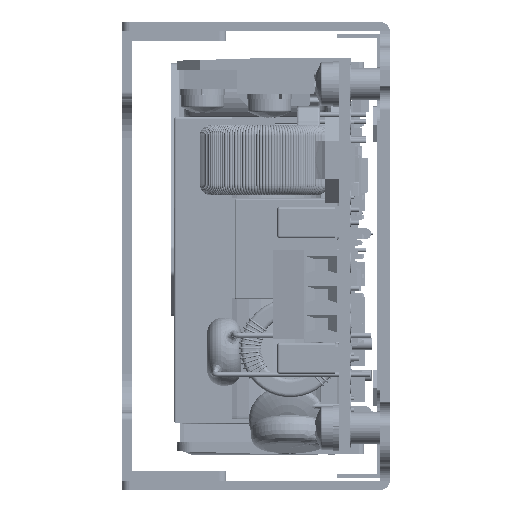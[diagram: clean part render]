
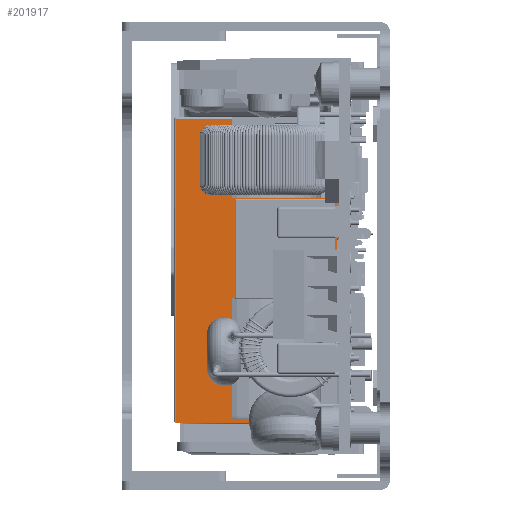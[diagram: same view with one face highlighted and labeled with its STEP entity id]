
A CAD part, left-side view. The second image highlights one B-rep face of the part: STEP entity #201917.
In plain terms, the highlighted planar face has unit normal (-1, 0, 0).
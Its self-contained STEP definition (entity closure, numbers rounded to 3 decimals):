
#1241 = ORIENTED_EDGE ( 'NONE', *, *, #32828, .T. ) ;
#4769 = ORIENTED_EDGE ( 'NONE', *, *, #473933, .F. ) ;
#11300 = CIRCLE ( 'NONE', #338039, 0.3 ) ;
#14370 = CARTESIAN_POINT ( 'NONE',  ( -19.404, -2.943, 96.411 ) ) ;
#18973 = EDGE_CURVE ( 'NONE', #394487, #508187, #142054, .T. ) ;
#20506 = LINE ( 'NONE', #456463, #126570 ) ;
#24136 = CARTESIAN_POINT ( 'NONE',  ( -19.404, 17.807, 106.561 ) ) ;
#32642 = DIRECTION ( 'NONE',  ( 0., 0., -1. ) ) ;
#32828 = EDGE_CURVE ( 'NONE', #508187, #414725, #20506, .T. ) ;
#37602 = DIRECTION ( 'NONE',  ( 0., 0., -1. ) ) ;
#48152 = CARTESIAN_POINT ( 'NONE',  ( -19.404, -2.643, 96.411 ) ) ;
#50537 = LINE ( 'NONE', #437788, #356437 ) ;
#54561 = CARTESIAN_POINT ( 'NONE',  ( -19.404, -2.943, 96.111 ) ) ;
#58815 = VERTEX_POINT ( 'NONE', #466336 ) ;
#63708 = EDGE_CURVE ( 'NONE', #58815, #113933, #330526, .T. ) ;
#64046 = VECTOR ( 'NONE', #393320, 1000. ) ;
#67596 = PLANE ( 'NONE',  #359834 ) ;
#70682 = ORIENTED_EDGE ( 'NONE', *, *, #459555, .T. ) ;
#89038 = CARTESIAN_POINT ( 'NONE',  ( -19.404, -2.943, 67.811 ) ) ;
#89202 = ORIENTED_EDGE ( 'NONE', *, *, #214662, .F. ) ;
#106070 = CARTESIAN_POINT ( 'NONE',  ( -19.404, 17.807, 67.361 ) ) ;
#106423 = ORIENTED_EDGE ( 'NONE', *, *, #18973, .T. ) ;
#110939 = CARTESIAN_POINT ( 'NONE',  ( -19.404, 10.657, 106.561 ) ) ;
#111753 = LINE ( 'NONE', #410912, #311461 ) ;
#113933 = VERTEX_POINT ( 'NONE', #463540 ) ;
#114266 = CARTESIAN_POINT ( 'NONE',  ( -19.404, -2.943, 106.861 ) ) ;
#118358 = ORIENTED_EDGE ( 'NONE', *, *, #131462, .T. ) ;
#126570 = VECTOR ( 'NONE', #498441, 1000. ) ;
#127607 = VECTOR ( 'NONE', #256076, 1000. ) ;
#131462 = EDGE_CURVE ( 'NONE', #58815, #197953, #368715, .T. ) ;
#137539 = VERTEX_POINT ( 'NONE', #449999 ) ;
#142054 = LINE ( 'NONE', #408027, #341735 ) ;
#145187 = ORIENTED_EDGE ( 'NONE', *, *, #462510, .F. ) ;
#146781 = VERTEX_POINT ( 'NONE', #244060 ) ;
#148527 = CARTESIAN_POINT ( 'NONE',  ( -19.404, -2.943, 67.361 ) ) ;
#160467 = DIRECTION ( 'NONE',  ( 0., 0., -1. ) ) ;
#162845 = CARTESIAN_POINT ( 'NONE',  ( -19.404, -2.643, 83.711 ) ) ;
#170878 = DIRECTION ( 'NONE',  ( 0., 1., 0. ) ) ;
#182770 = LINE ( 'NONE', #114266, #64046 ) ;
#187154 = EDGE_CURVE ( 'NONE', #414725, #263300, #501623, .T. ) ;
#187652 = ORIENTED_EDGE ( 'NONE', *, *, #187154, .T. ) ;
#188363 = CARTESIAN_POINT ( 'NONE',  ( -19.404, -2.943, 67.811 ) ) ;
#193861 = EDGE_LOOP ( 'NONE', ( #106423, #1241, #187652, #89202, #464619, #230509, #373769, #118358, #145187, #70682, #4769, #227181 ) ) ;
#197953 = VERTEX_POINT ( 'NONE', #451918 ) ;
#201917 = ADVANCED_FACE ( 'NONE', ( #223438 ), #67596, .F. ) ;
#203011 = DIRECTION ( 'NONE',  ( 0., 0., -1. ) ) ;
#207386 = EDGE_CURVE ( 'NONE', #146781, #320266, #482828, .T. ) ;
#214662 = EDGE_CURVE ( 'NONE', #320266, #263300, #50537, .T. ) ;
#221093 = EDGE_CURVE ( 'NONE', #113933, #146781, #339858, .T. ) ;
#223438 = FACE_OUTER_BOUND ( 'NONE', #193861, .T. ) ;
#227181 = ORIENTED_EDGE ( 'NONE', *, *, #450788, .F. ) ;
#230509 = ORIENTED_EDGE ( 'NONE', *, *, #221093, .F. ) ;
#236394 = VECTOR ( 'NONE', #492487, 1000. ) ;
#244060 = CARTESIAN_POINT ( 'NONE',  ( -19.404, 10.657, 67.811 ) ) ;
#248974 = LINE ( 'NONE', #14370, #236394 ) ;
#256076 = DIRECTION ( 'NONE',  ( 0., 0., -1. ) ) ;
#259346 = DIRECTION ( 'NONE',  ( 0., -1., 0. ) ) ;
#263300 = VERTEX_POINT ( 'NONE', #148527 ) ;
#271805 = DIRECTION ( 'NONE',  ( 1., 0., 0. ) ) ;
#276764 = DIRECTION ( 'NONE',  ( -1., 0., 0. ) ) ;
#296166 = CARTESIAN_POINT ( 'NONE',  ( -19.404, -2.943, 83.411 ) ) ;
#311461 = VECTOR ( 'NONE', #449407, 1000. ) ;
#320266 = VERTEX_POINT ( 'NONE', #188363 ) ;
#330526 = LINE ( 'NONE', #296166, #436602 ) ;
#338039 = AXIS2_PLACEMENT_3D ( 'NONE', #515765, #276764, #37602 ) ;
#339858 = LINE ( 'NONE', #369521, #127607 ) ;
#341735 = VECTOR ( 'NONE', #170878, 1000. ) ;
#356437 = VECTOR ( 'NONE', #160467, 1000. ) ;
#359834 = AXIS2_PLACEMENT_3D ( 'NONE', #510807, #271805, #32642 ) ;
#368162 = DIRECTION ( 'NONE',  ( 0., -1., 0. ) ) ;
#368715 = CIRCLE ( 'NONE', #422688, 0.3 ) ;
#369521 = CARTESIAN_POINT ( 'NONE',  ( -19.404, 10.657, 67.811 ) ) ;
#373769 = ORIENTED_EDGE ( 'NONE', *, *, #63708, .F. ) ;
#376664 = VECTOR ( 'NONE', #368162, 1000. ) ;
#378922 = VERTEX_POINT ( 'NONE', #54561 ) ;
#393320 = DIRECTION ( 'NONE',  ( 0., 0., -1. ) ) ;
#394487 = VERTEX_POINT ( 'NONE', #110939 ) ;
#395355 = VECTOR ( 'NONE', #259346, 1000. ) ;
#408027 = CARTESIAN_POINT ( 'NONE',  ( -19.404, -2.943, 106.561 ) ) ;
#410912 = CARTESIAN_POINT ( 'NONE',  ( -19.404, 10.657, 106.861 ) ) ;
#414725 = VERTEX_POINT ( 'NONE', #106070 ) ;
#421392 = DIRECTION ( 'NONE',  ( 0., 1., 0. ) ) ;
#422688 = AXIS2_PLACEMENT_3D ( 'NONE', #162845, #441926, #203011 ) ;
#436602 = VECTOR ( 'NONE', #421392, 1000. ) ;
#437788 = CARTESIAN_POINT ( 'NONE',  ( -19.404, -2.943, 106.861 ) ) ;
#441926 = DIRECTION ( 'NONE',  ( -1., 0., 0. ) ) ;
#449407 = DIRECTION ( 'NONE',  ( 0., 0., -1. ) ) ;
#449999 = CARTESIAN_POINT ( 'NONE',  ( -19.404, 10.657, 96.411 ) ) ;
#450788 = EDGE_CURVE ( 'NONE', #394487, #137539, #111753, .T. ) ;
#451918 = CARTESIAN_POINT ( 'NONE',  ( -19.404, -2.943, 83.711 ) ) ;
#456463 = CARTESIAN_POINT ( 'NONE',  ( -19.404, 17.807, 106.861 ) ) ;
#459555 = EDGE_CURVE ( 'NONE', #378922, #504097, #11300, .T. ) ;
#462510 = EDGE_CURVE ( 'NONE', #378922, #197953, #182770, .T. ) ;
#463540 = CARTESIAN_POINT ( 'NONE',  ( -19.404, 10.657, 83.411 ) ) ;
#464619 = ORIENTED_EDGE ( 'NONE', *, *, #207386, .F. ) ;
#466336 = CARTESIAN_POINT ( 'NONE',  ( -19.404, -2.643, 83.411 ) ) ;
#473933 = EDGE_CURVE ( 'NONE', #137539, #504097, #248974, .T. ) ;
#482828 = LINE ( 'NONE', #89038, #376664 ) ;
#492487 = DIRECTION ( 'NONE',  ( 0., -1., 0. ) ) ;
#498341 = CARTESIAN_POINT ( 'NONE',  ( -19.404, -2.943, 67.361 ) ) ;
#498441 = DIRECTION ( 'NONE',  ( 0., 0., -1. ) ) ;
#501623 = LINE ( 'NONE', #498341, #395355 ) ;
#504097 = VERTEX_POINT ( 'NONE', #48152 ) ;
#508187 = VERTEX_POINT ( 'NONE', #24136 ) ;
#510807 = CARTESIAN_POINT ( 'NONE',  ( -19.404, -2.943, 106.861 ) ) ;
#515765 = CARTESIAN_POINT ( 'NONE',  ( -19.404, -2.643, 96.111 ) ) ;
